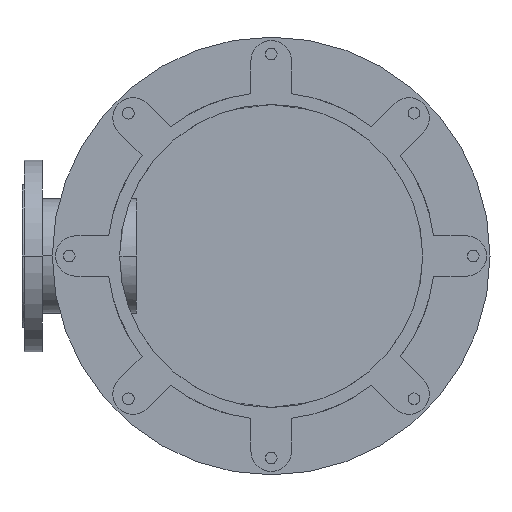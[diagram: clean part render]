
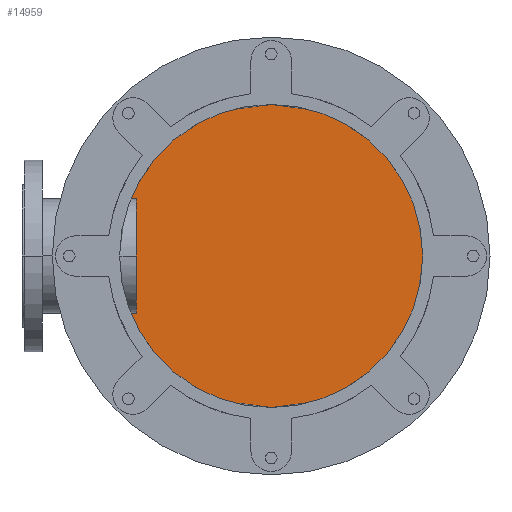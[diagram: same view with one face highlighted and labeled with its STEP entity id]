
A CAD part, front view. The second image highlights one B-rep face of the part: STEP entity #14959.
In plain terms, the highlighted planar face has unit normal (0, -1, 0).
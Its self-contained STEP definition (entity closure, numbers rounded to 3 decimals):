
#3900=CARTESIAN_POINT('',(0.,836.,0.));
#3901=DIRECTION('',(0.,-1.,0.));
#3902=DIRECTION('',(0.,0.,1.));
#3903=AXIS2_PLACEMENT_3D('',#3900,#3901,#3902);
#4069=CARTESIAN_POINT('',(0.,836.,0.));
#4070=DIRECTION('',(0.,-1.,0.));
#4071=DIRECTION('',(0.,0.,-1.));
#4072=AXIS2_PLACEMENT_3D('',#4069,#4070,#4071);
#9179=CARTESIAN_POINT('',(0.,836.,240.));
#9180=CARTESIAN_POINT('',(0.,836.,-240.));
#9181=VERTEX_POINT('',#9179);
#9182=VERTEX_POINT('',#9180);
#14949=CARTESIAN_POINT('',(0.,836.,0.));
#14950=DIRECTION('',(0.,1.,0.));
#14951=DIRECTION('',(0.,0.,-1.));
#14952=AXIS2_PLACEMENT_3D('',#14949,#14950,#14951);
#14953=PLANE('',#14952);
#14954=ORIENTED_EDGE('',*,*,#14927,.F.);
#14956=ORIENTED_EDGE('',*,*,#14955,.F.);
#14957=EDGE_LOOP('',(#14954,#14956));
#14958=FACE_OUTER_BOUND('',#14957,.F.);
#14959=ADVANCED_FACE('',(#14958),#14953,.F.);
#3904=CIRCLE('',#3903,240.);
#4073=CIRCLE('',#4072,240.);
#14927=EDGE_CURVE('',#9181,#9182,#3904,.T.);
#14955=EDGE_CURVE('',#9182,#9181,#4073,.T.);
